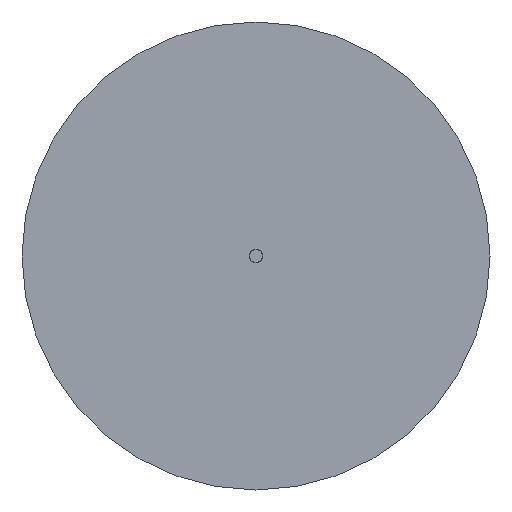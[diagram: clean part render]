
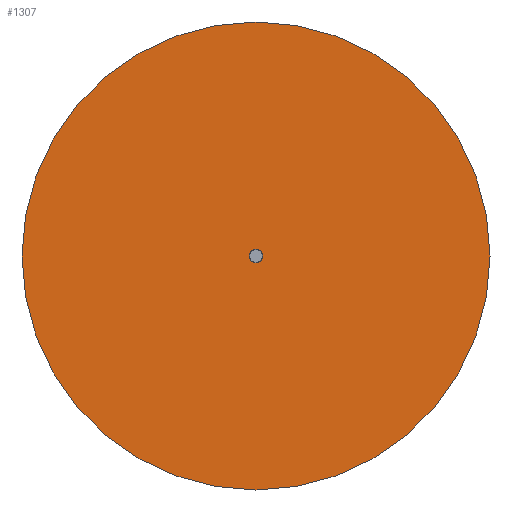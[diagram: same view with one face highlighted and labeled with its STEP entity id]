
A CAD part, front view. The second image highlights one B-rep face of the part: STEP entity #1307.
In plain terms, the highlighted planar face has unit normal (0, -1, 0).
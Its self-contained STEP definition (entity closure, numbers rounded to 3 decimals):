
#217=CARTESIAN_POINT('',(2.171,-33.5,0.0));
#218=VERTEX_POINT('',#217);
#234=CARTESIAN_POINT('',(-2.171,-33.5,0.));
#235=VERTEX_POINT('',#234);
#242=CARTESIAN_POINT('',(0.0,-33.5,0.0));
#243=DIRECTION('',(0.0,-1.0,0.0));
#244=DIRECTION('',(1.0,0.0,0.0));
#245=AXIS2_PLACEMENT_3D('',#242,#243,#244);
#246=CIRCLE('',#245,2.171);
#247=EDGE_CURVE('',#235,#218,#246,.T.);
#259=CARTESIAN_POINT('',(75.,-33.5,0.0));
#260=VERTEX_POINT('',#259);
#276=CARTESIAN_POINT('',(-75.,-33.5,0.));
#277=VERTEX_POINT('',#276);
#284=CARTESIAN_POINT('',(0.0,-33.5,0.0));
#285=DIRECTION('',(0.0,-1.0,0.0));
#286=DIRECTION('',(1.0,0.0,0.0));
#287=AXIS2_PLACEMENT_3D('',#284,#285,#286);
#288=CIRCLE('',#287,75.);
#289=EDGE_CURVE('',#260,#277,#288,.T.);
#1276=CARTESIAN_POINT('',(0.0,-33.5,0.0));
#1277=DIRECTION('',(0.0,-1.0,0.0));
#1278=DIRECTION('',(1.0,0.0,0.0));
#1279=AXIS2_PLACEMENT_3D('',#1276,#1277,#1278);
#1280=CIRCLE('',#1279,75.);
#1281=EDGE_CURVE('',#277,#260,#1280,.T.);
#1288=CARTESIAN_POINT('',(38.585,-33.5,0.0));
#1289=DIRECTION('',(0.0,-1.0,0.0));
#1290=DIRECTION('',(0.0,0.0,-1.0));
#1291=AXIS2_PLACEMENT_3D('',#1288,#1289,#1290);
#1292=PLANE('',#1291);
#1293=ORIENTED_EDGE('',*,*,#289,.T.);
#1294=ORIENTED_EDGE('',*,*,#1281,.T.);
#1295=EDGE_LOOP('',(#1293,#1294));
#1296=FACE_OUTER_BOUND('',#1295,.T.);
#1297=CARTESIAN_POINT('',(0.0,-33.5,0.0));
#1298=DIRECTION('',(0.0,-1.0,0.0));
#1299=DIRECTION('',(1.0,0.0,0.0));
#1300=AXIS2_PLACEMENT_3D('',#1297,#1298,#1299);
#1301=CIRCLE('',#1300,2.171);
#1302=EDGE_CURVE('',#218,#235,#1301,.T.);
#1303=ORIENTED_EDGE('',*,*,#1302,.F.);
#1304=ORIENTED_EDGE('',*,*,#247,.F.);
#1305=EDGE_LOOP('',(#1303,#1304));
#1306=FACE_BOUND('',#1305,.T.);
#1307=ADVANCED_FACE('',(#1296,#1306),#1292,.T.);
